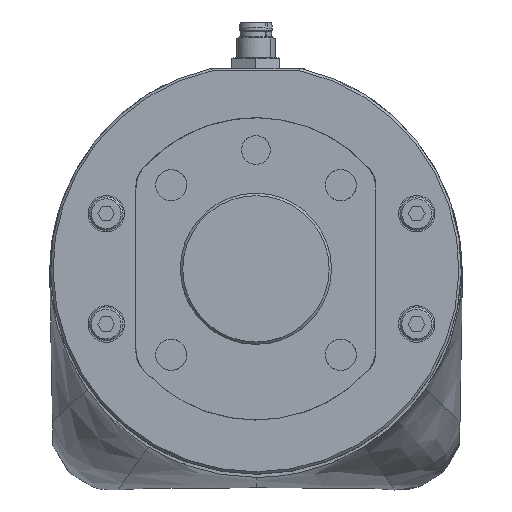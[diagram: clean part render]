
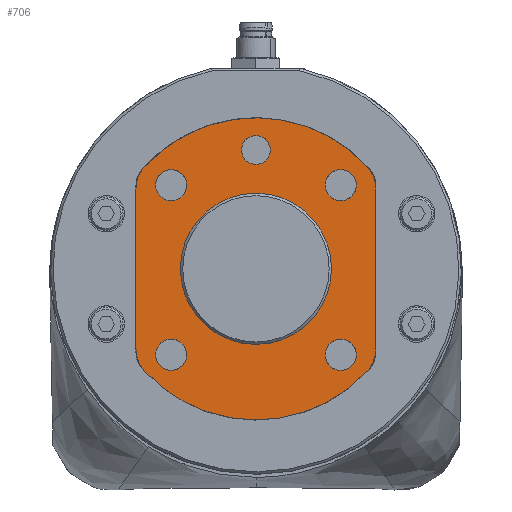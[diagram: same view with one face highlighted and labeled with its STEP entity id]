
A CAD part, top view. The second image highlights one B-rep face of the part: STEP entity #706.
In plain terms, the highlighted planar face has unit normal (0, 0, 1).
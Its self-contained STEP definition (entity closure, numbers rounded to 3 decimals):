
#706=ADVANCED_FACE('',(#2326,#2327,#2328,#2329,#2330,#2331,#2332),#2333,.F.);
#2326=FACE_BOUND('',#7755,.T.);
#2327=FACE_BOUND('',#7756,.T.);
#2328=FACE_BOUND('',#7757,.T.);
#2329=FACE_BOUND('',#7758,.T.);
#2330=FACE_BOUND('',#7759,.T.);
#2331=FACE_BOUND('',#7760,.T.);
#2332=FACE_OUTER_BOUND('',#7761,.T.);
#2333=PLANE('',#7762);
#7755=EDGE_LOOP('',(#13101));
#7756=EDGE_LOOP('',(#13102));
#7757=EDGE_LOOP('',(#13103));
#7758=EDGE_LOOP('',(#13104));
#7759=EDGE_LOOP('',(#13105));
#7760=EDGE_LOOP('',(#13106));
#7761=EDGE_LOOP('',(#13107,#13108,#13109,#13110,#13111,#13112,#13113,#13114));
#7762=AXIS2_PLACEMENT_3D('',#13115,#13116,#13117);
#13101=ORIENTED_EDGE('',*,*,#18495,.T.);
#13102=ORIENTED_EDGE('',*,*,#18499,.T.);
#13103=ORIENTED_EDGE('',*,*,#18503,.T.);
#13104=ORIENTED_EDGE('',*,*,#18507,.T.);
#13105=ORIENTED_EDGE('',*,*,#18509,.T.);
#13106=ORIENTED_EDGE('',*,*,#18510,.F.);
#13107=ORIENTED_EDGE('',*,*,#18511,.F.);
#13108=ORIENTED_EDGE('',*,*,#18478,.T.);
#13109=ORIENTED_EDGE('',*,*,#18512,.F.);
#13110=ORIENTED_EDGE('',*,*,#18513,.T.);
#13111=ORIENTED_EDGE('',*,*,#18514,.F.);
#13112=ORIENTED_EDGE('',*,*,#18465,.T.);
#13113=ORIENTED_EDGE('',*,*,#18515,.F.);
#13114=ORIENTED_EDGE('',*,*,#18470,.T.);
#13115=CARTESIAN_POINT('',(-0.003,-0.133,27.778));
#13116=DIRECTION('',(0.0,0.0,-1.0));
#13117=DIRECTION('',(1.0,0.0,0.0));
#18465=EDGE_CURVE('',#21878,#21876,#21879,.F.);
#18470=EDGE_CURVE('',#21888,#21886,#21889,.F.);
#18478=EDGE_CURVE('',#21904,#21902,#21905,.F.);
#18495=EDGE_CURVE('',#21930,#21930,#21931,.T.);
#18499=EDGE_CURVE('',#21938,#21938,#21939,.T.);
#18503=EDGE_CURVE('',#21946,#21946,#21947,.T.);
#18507=EDGE_CURVE('',#21954,#21954,#21955,.T.);
#18509=EDGE_CURVE('',#21958,#21958,#21959,.T.);
#18510=EDGE_CURVE('',#21960,#21960,#21961,.T.);
#18511=EDGE_CURVE('',#21904,#21886,#21962,.T.);
#18512=EDGE_CURVE('',#21963,#21902,#21964,.T.);
#18513=EDGE_CURVE('',#21963,#21965,#21966,.F.);
#18514=EDGE_CURVE('',#21878,#21965,#21967,.T.);
#18515=EDGE_CURVE('',#21888,#21876,#21968,.T.);
#21876=VERTEX_POINT('',#34640);
#21878=VERTEX_POINT('',#34643);
#21879=CIRCLE('',#34644,7.0);
#21886=VERTEX_POINT('',#34655);
#21888=VERTEX_POINT('',#34658);
#21889=CIRCLE('',#34659,7.0);
#21902=VERTEX_POINT('',#34676);
#21904=VERTEX_POINT('',#34679);
#21905=CIRCLE('',#34680,7.0);
#21930=VERTEX_POINT('',#34820);
#21931=CIRCLE('',#34821,3.25);
#21938=VERTEX_POINT('',#34828);
#21939=CIRCLE('',#34829,3.25);
#21946=VERTEX_POINT('',#34836);
#21947=CIRCLE('',#34837,3.25);
#21954=VERTEX_POINT('',#34844);
#21955=CIRCLE('',#34845,3.25);
#21958=VERTEX_POINT('',#34848);
#21959=CIRCLE('',#34849,3.0);
#21960=VERTEX_POINT('',#34850);
#21961=CIRCLE('',#34851,15.75);
#21962=CIRCLE('',#34852,31.5);
#21963=VERTEX_POINT('',#34853);
#21964=LINE('',#34854,#34855);
#21965=VERTEX_POINT('',#34856);
#21966=CIRCLE('',#34857,7.0);
#21967=CIRCLE('',#34858,31.5);
#21968=LINE('',#34859,#34860);
#34640=CARTESIAN_POINT('',(24.997,-16.754,27.778));
#34643=CARTESIAN_POINT('',(23.14,-21.503,27.778));
#34644=AXIS2_PLACEMENT_3D('',#42132,#42133,#42134);
#34655=CARTESIAN_POINT('',(23.14,21.236,27.778));
#34658=CARTESIAN_POINT('',(24.997,16.487,27.778));
#34659=AXIS2_PLACEMENT_3D('',#42140,#42141,#42142);
#34676=CARTESIAN_POINT('',(-25.003,16.487,27.778));
#34679=CARTESIAN_POINT('',(-23.146,21.236,27.778));
#34680=AXIS2_PLACEMENT_3D('',#42154,#42155,#42156);
#34820=CARTESIAN_POINT('',(14.426,-18.042,27.778));
#34821=AXIS2_PLACEMENT_3D('',#42176,#42177,#42178);
#34828=CARTESIAN_POINT('',(-20.929,-18.042,27.778));
#34829=AXIS2_PLACEMENT_3D('',#42188,#42189,#42190);
#34836=CARTESIAN_POINT('',(14.426,17.313,27.778));
#34837=AXIS2_PLACEMENT_3D('',#42200,#42201,#42202);
#34844=CARTESIAN_POINT('',(-20.929,17.313,27.778));
#34845=AXIS2_PLACEMENT_3D('',#42212,#42213,#42214);
#34848=CARTESIAN_POINT('',(2.998,24.635,27.778));
#34849=AXIS2_PLACEMENT_3D('',#42218,#42219,#42220);
#34850=CARTESIAN_POINT('',(15.747,-0.133,27.778));
#34851=AXIS2_PLACEMENT_3D('',#42221,#42222,#42223);
#34852=AXIS2_PLACEMENT_3D('',#42224,#42225,#42226);
#34853=CARTESIAN_POINT('',(-25.003,-16.754,27.778));
#34854=CARTESIAN_POINT('',(-25.003,-19.297,27.778));
#34855=VECTOR('',#42227,1.0);
#34856=CARTESIAN_POINT('',(-23.146,-21.503,27.778));
#34857=AXIS2_PLACEMENT_3D('',#42228,#42229,#42230);
#34858=AXIS2_PLACEMENT_3D('',#42231,#42232,#42233);
#34859=CARTESIAN_POINT('',(24.997,19.03,27.778));
#34860=VECTOR('',#42234,1.0);
#42132=CARTESIAN_POINT('',(17.997,-16.754,27.778));
#42133=DIRECTION('',(0.0,0.0,-1.0));
#42134=DIRECTION('',(-1.0,0.0,0.0));
#42140=CARTESIAN_POINT('',(17.997,16.487,27.778));
#42141=DIRECTION('',(0.0,0.0,-1.0));
#42142=DIRECTION('',(-1.0,0.0,0.0));
#42154=CARTESIAN_POINT('',(-18.003,16.487,27.778));
#42155=DIRECTION('',(0.0,0.0,-1.0));
#42156=DIRECTION('',(-1.0,0.0,0.0));
#42176=CARTESIAN_POINT('',(17.676,-18.042,27.778));
#42177=DIRECTION('',(0.0,0.0,-1.0));
#42178=DIRECTION('',(-1.0,0.0,0.0));
#42188=CARTESIAN_POINT('',(-17.679,-18.042,27.778));
#42189=DIRECTION('',(0.0,0.0,-1.0));
#42190=DIRECTION('',(-1.0,0.0,0.0));
#42200=CARTESIAN_POINT('',(17.676,17.313,27.778));
#42201=DIRECTION('',(0.0,0.0,-1.0));
#42202=DIRECTION('',(-1.0,0.0,0.0));
#42212=CARTESIAN_POINT('',(-17.679,17.313,27.778));
#42213=DIRECTION('',(0.0,0.0,-1.0));
#42214=DIRECTION('',(-1.0,0.0,0.0));
#42218=CARTESIAN_POINT('',(-0.002,24.635,27.778));
#42219=DIRECTION('',(0.0,0.0,-1.0));
#42220=DIRECTION('',(1.0,0.0,0.0));
#42221=CARTESIAN_POINT('',(-0.003,-0.133,27.778));
#42222=DIRECTION('',(0.0,0.0,1.0));
#42223=DIRECTION('',(1.0,0.0,0.0));
#42224=CARTESIAN_POINT('',(-0.003,-0.133,27.778));
#42225=DIRECTION('',(0.0,0.0,-1.0));
#42226=DIRECTION('',(1.0,0.0,0.0));
#42227=DIRECTION('',(0.0,1.0,0.0));
#42228=CARTESIAN_POINT('',(-18.003,-16.754,27.778));
#42229=DIRECTION('',(0.0,0.0,-1.0));
#42230=DIRECTION('',(-1.0,0.0,0.0));
#42231=CARTESIAN_POINT('',(-0.003,-0.133,27.778));
#42232=DIRECTION('',(0.0,0.0,-1.0));
#42233=DIRECTION('',(1.0,0.0,0.0));
#42234=DIRECTION('',(0.,-1.0,0.0));
